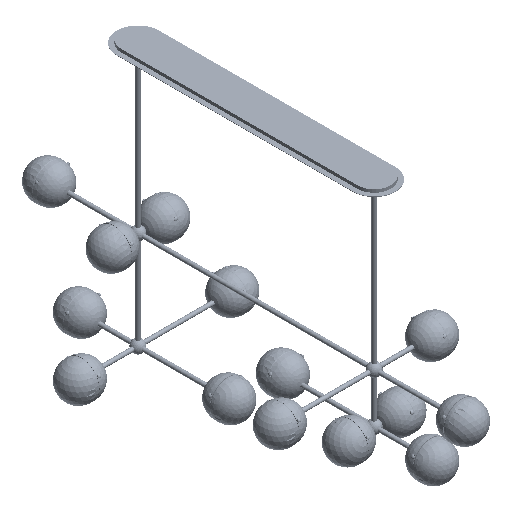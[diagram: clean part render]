
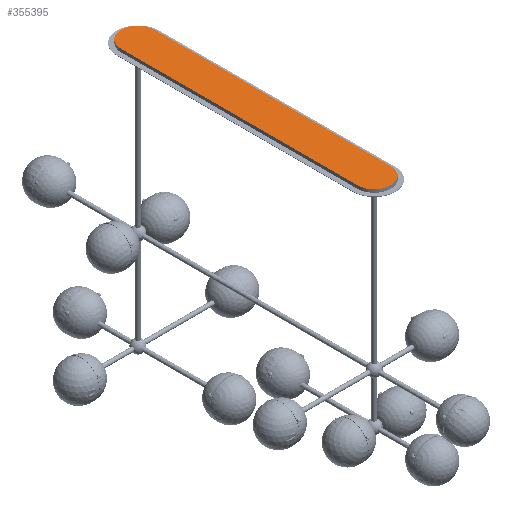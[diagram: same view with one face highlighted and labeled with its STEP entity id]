
A CAD part, isometric view. The second image highlights one B-rep face of the part: STEP entity #355395.
In plain terms, the highlighted planar face has unit normal (0, 0, 1).
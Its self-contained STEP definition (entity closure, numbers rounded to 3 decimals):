
#47748=LINE('',#599666,#88437);
#47752=LINE('',#599677,#88441);
#88437=VECTOR('',#480668,10.);
#88441=VECTOR('',#480680,10.);
#112524=FACE_OUTER_BOUND('',#134043,.T.);
#134043=EDGE_LOOP('',(#316237,#316238,#316239,#316240));
#140394=CIRCLE('',#385344,55.);
#140396=CIRCLE('',#385348,55.);
#172314=VERTEX_POINT('',#599656);
#172315=VERTEX_POINT('',#599657);
#172318=VERTEX_POINT('',#599665);
#172320=VERTEX_POINT('',#599671);
#220283=EDGE_CURVE('',#172314,#172315,#140394,.T.);
#220287=EDGE_CURVE('',#172318,#172314,#47748,.T.);
#220290=EDGE_CURVE('',#172320,#172318,#140396,.T.);
#220293=EDGE_CURVE('',#172315,#172320,#47752,.T.);
#316237=ORIENTED_EDGE('',*,*,#220293,.F.);
#316238=ORIENTED_EDGE('',*,*,#220283,.F.);
#316239=ORIENTED_EDGE('',*,*,#220287,.F.);
#316240=ORIENTED_EDGE('',*,*,#220290,.F.);
#334092=PLANE('',#385352);
#355395=ADVANCED_FACE('',(#112524),#334092,.F.);
#385344=AXIS2_PLACEMENT_3D('',#599658,#480660,#480661);
#385348=AXIS2_PLACEMENT_3D('',#599672,#480673,#480674);
#385352=AXIS2_PLACEMENT_3D('',#599680,#480684,#480685);
#480660=DIRECTION('center_axis',(0.,0.,
-1.));
#480661=DIRECTION('ref_axis',(0.,1.,0.));
#480668=DIRECTION('',(0.,-1.,0.));
#480673=DIRECTION('center_axis',(0.,0.,
-1.));
#480674=DIRECTION('ref_axis',(0.,1.,0.));
#480680=DIRECTION('',(0.,1.,0.));
#480684=DIRECTION('center_axis',(0.,0.,
-1.));
#480685=DIRECTION('ref_axis',(0.,1.,0.));
#599656=CARTESIAN_POINT('',(55.,0.,936.981));
#599657=CARTESIAN_POINT('',(-55.,0.,936.981));
#599658=CARTESIAN_POINT('Origin',(0.,0.,
936.981));
#599665=CARTESIAN_POINT('',(55.,780.,936.981));
#599666=CARTESIAN_POINT('',(55.,780.,936.981));
#599671=CARTESIAN_POINT('',(-55.,780.,936.981));
#599672=CARTESIAN_POINT('Origin',(0.,780.,
936.981));
#599677=CARTESIAN_POINT('',(-55.,0.,936.981));
#599680=CARTESIAN_POINT('Origin',(0.,390.,
936.981));
